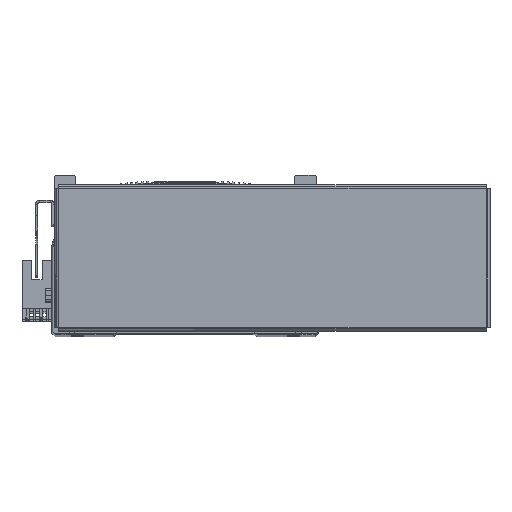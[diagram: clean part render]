
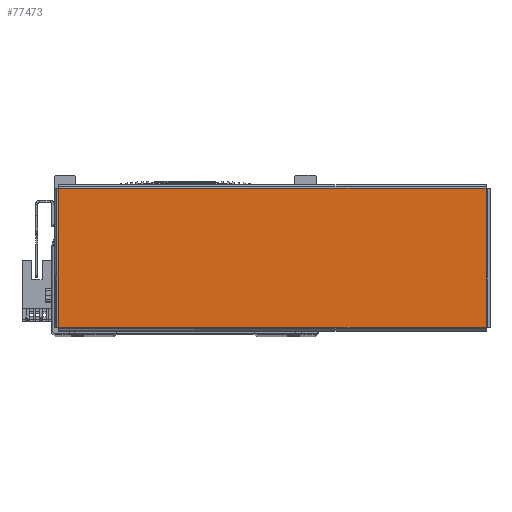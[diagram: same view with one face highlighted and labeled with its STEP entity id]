
A CAD part, top view. The second image highlights one B-rep face of the part: STEP entity #77473.
In plain terms, the highlighted planar face has unit normal (0, 0, 1) as drawn and (0, 0, -1) by its records, which use the part's own axes.
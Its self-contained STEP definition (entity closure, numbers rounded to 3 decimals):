
#2426 = EDGE_CURVE ( 'NONE', #49553, #49511, #48828, .T. ) ;
#2445 = EDGE_CURVE ( 'NONE', #49589, #49553, #48891, .T. ) ;
#2478 = EDGE_CURVE ( 'NONE', #49455, #49589, #48858, .T. ) ;
#2541 = EDGE_CURVE ( 'NONE', #49511, #49455, #48954, .T. ) ;
#4797 = AXIS2_PLACEMENT_3D ( 'NONE', #26511, #26434, #26425 ) ;
#23636 = CARTESIAN_POINT ( 'NONE',  ( -97.863, -31.793, -1. ) ) ;
#23645 = DIRECTION ( 'NONE',  ( 0., 1., 0. ) ) ;
#23765 = ORIENTED_EDGE ( 'NONE', *, *, #2541, .T. ) ;
#23788 = ORIENTED_EDGE ( 'NONE', *, *, #2445, .T. ) ;
#23801 = ORIENTED_EDGE ( 'NONE', *, *, #2426, .T. ) ;
#23816 = ORIENTED_EDGE ( 'NONE', *, *, #2478, .T. ) ;
#26425 = DIRECTION ( 'NONE',  ( 1., 0., 0. ) ) ;
#26434 = DIRECTION ( 'NONE',  ( 0., 0., 1. ) ) ;
#26493 = PLANE ( 'NONE',  #4797 ) ;
#26511 = CARTESIAN_POINT ( 'NONE',  ( 0., 0., -1. ) ) ;
#29682 = FACE_OUTER_BOUND ( 'NONE', #32371, .T. ) ;
#32371 = EDGE_LOOP ( 'NONE', ( #23816, #23788, #23801, #23765 ) ) ;
#37939 = DIRECTION ( 'NONE',  ( -1., 0., 0. ) ) ;
#37985 = CARTESIAN_POINT ( 'NONE',  ( 97.893, -31.763, -1. ) ) ;
#44627 = CARTESIAN_POINT ( 'NONE',  ( -97.893, 31.763, -1. ) ) ;
#44638 = DIRECTION ( 'NONE',  ( 1., 0., 0. ) ) ;
#45958 = DIRECTION ( 'NONE',  ( 0., -1., 0. ) ) ;
#45997 = CARTESIAN_POINT ( 'NONE',  ( 97.863, 31.793, -1. ) ) ;
#48798 = VECTOR ( 'NONE', #23645, 1000. ) ;
#48828 = LINE ( 'NONE', #23636, #48798 ) ;
#48858 = LINE ( 'NONE', #45997, #48907 ) ;
#48863 = VECTOR ( 'NONE', #37939, 1000. ) ;
#48891 = LINE ( 'NONE', #37985, #48863 ) ;
#48907 = VECTOR ( 'NONE', #45958, 1000. ) ;
#48954 = LINE ( 'NONE', #44627, #48980 ) ;
#48980 = VECTOR ( 'NONE', #44638, 1000. ) ;
#49455 = VERTEX_POINT ( 'NONE', #58679 ) ;
#49511 = VERTEX_POINT ( 'NONE', #58741 ) ;
#49553 = VERTEX_POINT ( 'NONE', #58794 ) ;
#49589 = VERTEX_POINT ( 'NONE', #58832 ) ;
#58679 = CARTESIAN_POINT ( 'NONE',  ( 97.863, 31.763, -1. ) ) ;
#58741 = CARTESIAN_POINT ( 'NONE',  ( -97.863, 31.763, -1. ) ) ;
#58794 = CARTESIAN_POINT ( 'NONE',  ( -97.863, -31.763, -1. ) ) ;
#58832 = CARTESIAN_POINT ( 'NONE',  ( 97.863, -31.763, -1. ) ) ;
#77473 = ADVANCED_FACE ( 'NONE', ( #29682 ), #26493, .F. ) ;
